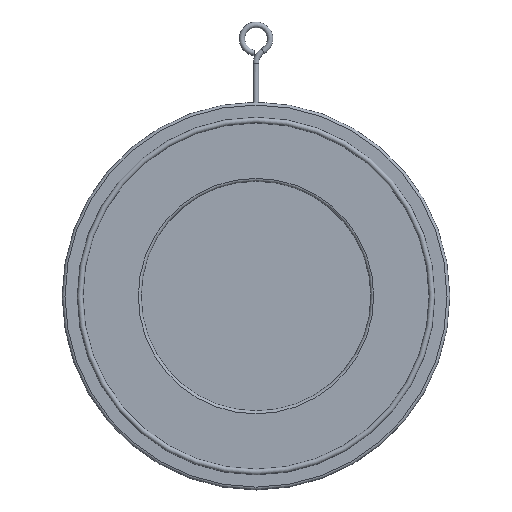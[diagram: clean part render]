
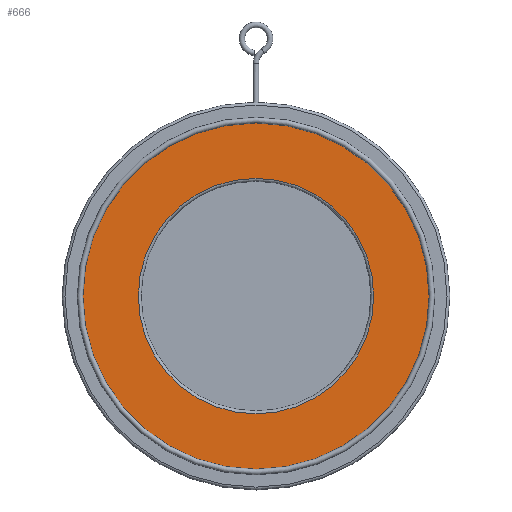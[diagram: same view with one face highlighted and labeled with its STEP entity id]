
A CAD part, top view. The second image highlights one B-rep face of the part: STEP entity #666.
In plain terms, the highlighted planar face has unit normal (0, 0, 1).
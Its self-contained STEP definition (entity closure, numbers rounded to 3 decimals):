
#666 = ADVANCED_FACE( '', ( #1399, #1400 ), #1401, .F. );
#1399 = FACE_BOUND( '', #2529, .T. );
#1400 = FACE_OUTER_BOUND( '', #2530, .T. );
#1401 = PLANE( '', #2531 );
#2529 = EDGE_LOOP( '', ( #4931 ) );
#2530 = EDGE_LOOP( '', ( #4932 ) );
#2531 = AXIS2_PLACEMENT_3D( '', #4933, #4934, #4935 );
#4931 = ORIENTED_EDGE( '', *, *, #5787, .T. );
#4932 = ORIENTED_EDGE( '', *, *, #5418, .T. );
#4933 = CARTESIAN_POINT( '', ( 0., 0., 11. ) );
#4934 = DIRECTION( '', ( 0., 0., -1. ) );
#4935 = DIRECTION( '', ( -1., 0., 0. ) );
#5418 = EDGE_CURVE( '', #6366, #6366, #6367, .T. );
#5787 = EDGE_CURVE( '', #6888, #6888, #6889, .T. );
#6366 = VERTEX_POINT( '', #8177 );
#6367 = CIRCLE( '', #8178, 122.8 );
#6888 = VERTEX_POINT( '', #9984 );
#6889 = CIRCLE( '', #9985, 83.5 );
#8177 = CARTESIAN_POINT( '', ( 122.8, 0., 11. ) );
#8178 = AXIS2_PLACEMENT_3D( '', #10385, #10386, #10387 );
#9984 = CARTESIAN_POINT( '', ( -83.5, 0., 11. ) );
#9985 = AXIS2_PLACEMENT_3D( '', #10528, #10529, #10530 );
#10385 = CARTESIAN_POINT( '', ( 0., 0., 11. ) );
#10386 = DIRECTION( '', ( 0., 0., 1. ) );
#10387 = DIRECTION( '', ( 1., 0., 0. ) );
#10528 = CARTESIAN_POINT( '', ( 0., 0., 11. ) );
#10529 = DIRECTION( '', ( 0., 0., -1. ) );
#10530 = DIRECTION( '', ( -1., 0., 0. ) );
